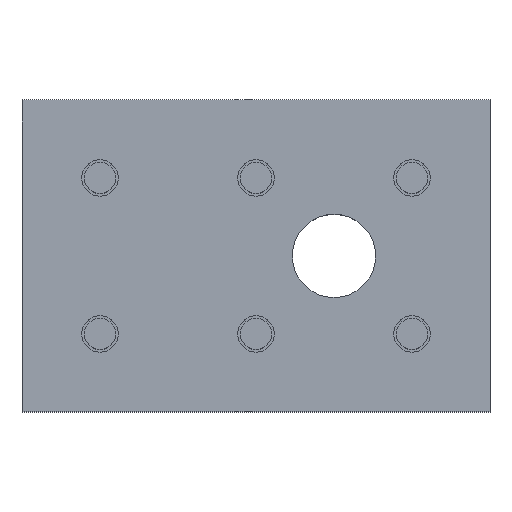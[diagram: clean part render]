
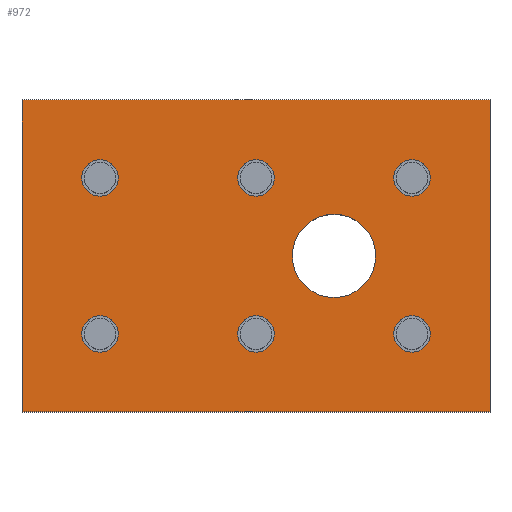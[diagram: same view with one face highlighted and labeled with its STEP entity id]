
A CAD part, top view. The second image highlights one B-rep face of the part: STEP entity #972.
In plain terms, the highlighted planar face has unit normal (0, 0, 1).
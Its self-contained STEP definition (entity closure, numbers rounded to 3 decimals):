
#202=CARTESIAN_POINT('',(-26.5,-15.0,0.0));
#203=VERTEX_POINT('',#202);
#204=CARTESIAN_POINT('',(-30.,-15.0,0.0));
#205=DIRECTION('',(0.0,0.0,-1.0));
#206=DIRECTION('',(-1.0,0.0,0.0));
#207=AXIS2_PLACEMENT_3D('',#204,#205,#206);
#208=CIRCLE('',#207,3.5);
#209=EDGE_CURVE('',#203,#203,#208,.T.);
#312=CARTESIAN_POINT('',(3.5,-15.0,0.0));
#313=VERTEX_POINT('',#312);
#314=CARTESIAN_POINT('',(0.0,-15.0,0.0));
#315=DIRECTION('',(0.0,0.0,-1.0));
#316=DIRECTION('',(-1.0,0.0,0.0));
#317=AXIS2_PLACEMENT_3D('',#314,#315,#316);
#318=CIRCLE('',#317,3.5);
#319=EDGE_CURVE('',#313,#313,#318,.T.);
#422=CARTESIAN_POINT('',(33.5,-15.0,0.0));
#423=VERTEX_POINT('',#422);
#424=CARTESIAN_POINT('',(30.,-15.0,0.0));
#425=DIRECTION('',(0.0,0.0,-1.0));
#426=DIRECTION('',(-1.0,0.0,0.0));
#427=AXIS2_PLACEMENT_3D('',#424,#425,#426);
#428=CIRCLE('',#427,3.5);
#429=EDGE_CURVE('',#423,#423,#428,.T.);
#532=CARTESIAN_POINT('',(-26.5,15.,0.0));
#533=VERTEX_POINT('',#532);
#534=CARTESIAN_POINT('',(-30.,15.,0.0));
#535=DIRECTION('',(0.0,0.0,-1.0));
#536=DIRECTION('',(-1.0,0.0,0.0));
#537=AXIS2_PLACEMENT_3D('',#534,#535,#536);
#538=CIRCLE('',#537,3.5);
#539=EDGE_CURVE('',#533,#533,#538,.T.);
#642=CARTESIAN_POINT('',(3.5,15.,0.0));
#643=VERTEX_POINT('',#642);
#644=CARTESIAN_POINT('',(0.0,15.,0.0));
#645=DIRECTION('',(0.0,0.0,-1.0));
#646=DIRECTION('',(-1.0,0.0,0.0));
#647=AXIS2_PLACEMENT_3D('',#644,#645,#646);
#648=CIRCLE('',#647,3.5);
#649=EDGE_CURVE('',#643,#643,#648,.T.);
#752=CARTESIAN_POINT('',(33.5,15.,0.0));
#753=VERTEX_POINT('',#752);
#754=CARTESIAN_POINT('',(30.,15.,0.0));
#755=DIRECTION('',(0.0,0.0,-1.0));
#756=DIRECTION('',(-1.0,0.0,0.0));
#757=AXIS2_PLACEMENT_3D('',#754,#755,#756);
#758=CIRCLE('',#757,3.5);
#759=EDGE_CURVE('',#753,#753,#758,.T.);
#804=CARTESIAN_POINT('',(23.,0.,0.0));
#805=VERTEX_POINT('',#804);
#806=CARTESIAN_POINT('',(15.,0.,0.0));
#807=DIRECTION('',(0.0,0.0,-1.0));
#808=DIRECTION('',(1.0,0.0,0.0));
#809=AXIS2_PLACEMENT_3D('',#806,#807,#808);
#810=CIRCLE('',#809,8.);
#811=EDGE_CURVE('',#805,#805,#810,.T.);
#831=CARTESIAN_POINT('',(45.,-30.,0.0));
#832=VERTEX_POINT('',#831);
#839=CARTESIAN_POINT('',(-45.,-30.,0.0));
#840=VERTEX_POINT('',#839);
#841=CARTESIAN_POINT('',(45.,-30.,0.0));
#842=DIRECTION('',(-1.0,0.0,0.0));
#843=VECTOR('',#842,90.);
#844=LINE('',#841,#843);
#845=EDGE_CURVE('',#832,#840,#844,.T.);
#869=CARTESIAN_POINT('',(45.,30.,0.0));
#870=VERTEX_POINT('',#869);
#877=CARTESIAN_POINT('',(45.,30.,0.0));
#878=DIRECTION('',(0.0,-1.0,0.0));
#879=VECTOR('',#878,60.);
#880=LINE('',#877,#879);
#881=EDGE_CURVE('',#870,#832,#880,.T.);
#900=CARTESIAN_POINT('',(-45.,30.,0.0));
#901=VERTEX_POINT('',#900);
#908=CARTESIAN_POINT('',(-45.,30.,0.0));
#909=DIRECTION('',(1.0,0.0,0.0));
#910=VECTOR('',#909,90.);
#911=LINE('',#908,#910);
#912=EDGE_CURVE('',#901,#870,#911,.T.);
#930=CARTESIAN_POINT('',(-45.,-30.,0.0));
#931=DIRECTION('',(0.0,1.0,0.0));
#932=VECTOR('',#931,60.);
#933=LINE('',#930,#932);
#934=EDGE_CURVE('',#840,#901,#933,.T.);
#940=CARTESIAN_POINT('',(0.,0.0,0.0));
#941=DIRECTION('',(0.0,0.0,1.0));
#942=DIRECTION('',(1.0,0.0,0.0));
#943=AXIS2_PLACEMENT_3D('',#940,#941,#942);
#944=PLANE('',#943);
#945=ORIENTED_EDGE('',*,*,#934,.F.);
#946=ORIENTED_EDGE('',*,*,#845,.F.);
#947=ORIENTED_EDGE('',*,*,#881,.F.);
#948=ORIENTED_EDGE('',*,*,#912,.F.);
#949=EDGE_LOOP('',(#945,#946,#947,#948));
#950=FACE_OUTER_BOUND('',#949,.T.);
#951=ORIENTED_EDGE('',*,*,#209,.T.);
#952=EDGE_LOOP('',(#951));
#953=FACE_BOUND('',#952,.T.);
#954=ORIENTED_EDGE('',*,*,#319,.T.);
#955=EDGE_LOOP('',(#954));
#956=FACE_BOUND('',#955,.T.);
#957=ORIENTED_EDGE('',*,*,#429,.T.);
#958=EDGE_LOOP('',(#957));
#959=FACE_BOUND('',#958,.T.);
#960=ORIENTED_EDGE('',*,*,#539,.T.);
#961=EDGE_LOOP('',(#960));
#962=FACE_BOUND('',#961,.T.);
#963=ORIENTED_EDGE('',*,*,#649,.T.);
#964=EDGE_LOOP('',(#963));
#965=FACE_BOUND('',#964,.T.);
#966=ORIENTED_EDGE('',*,*,#759,.T.);
#967=EDGE_LOOP('',(#966));
#968=FACE_BOUND('',#967,.T.);
#969=ORIENTED_EDGE('',*,*,#811,.T.);
#970=EDGE_LOOP('',(#969));
#971=FACE_BOUND('',#970,.T.);
#972=ADVANCED_FACE('',(#950,#953,#956,#959,#962,#965,#968,#971),#944,.T.);
